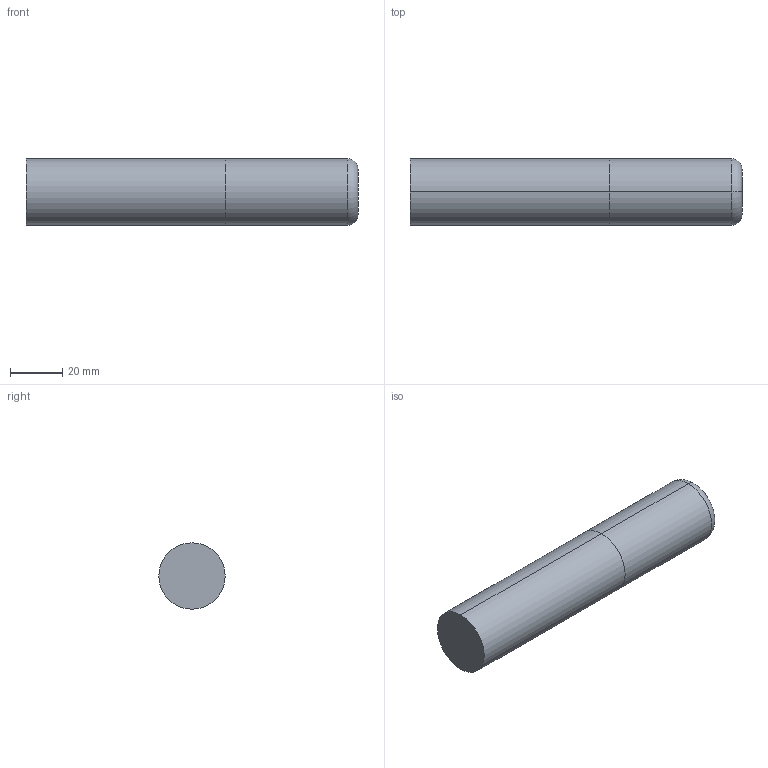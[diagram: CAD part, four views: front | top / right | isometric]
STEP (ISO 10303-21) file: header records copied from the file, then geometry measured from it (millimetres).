
FILE_DESCRIPTION (( 'STEP AP214' ), '1' );
FILE_NAME ('SSI51000-156.STEP', '2025-05-23T15:30:58', ( '' ), ( '' ), 'SwSTEP 2.0', 'SolidWorks 2023', '' );
FILE_SCHEMA (( 'AUTOMOTIVE_DESIGN' ));
Length unit declared in the file: inch
Products named in the file (3): SSI5 Imperial SHANK ONLY_SSI51000-156; SSI5 Imperial LOC ONLY_SSI51000-156; SSI51000-156
Assembly tree (2 placements, depth 2):
  SSI51000-156
    SSI5 Imperial LOC ONLY_SSI51000-156
    SSI5 Imperial SHANK ONLY_SSI51000-156
Bounding box: 127 x 25.4 x 25.4 mm (x, y, z)
Volume: 64101.7 mm3; surface area: 12018.3 mm2
Topology: 2 solids, 2 shells, 10 faces, 16 edges, 10 vertices
Faces by surface type: cylinder 4, plane 4, torus 2
Entity records: 412 total; most frequent: DIRECTION 58, CARTESIAN_POINT 41, ORIENTED_EDGE 32, AXIS2_PLACEMENT_3D 27, EDGE_CURVE 16, CIRCLE 12, LENGTH_MEASURE_WITH_UNIT 11, UNCERTAINTY_MEASURE_WITH_UNIT 11
